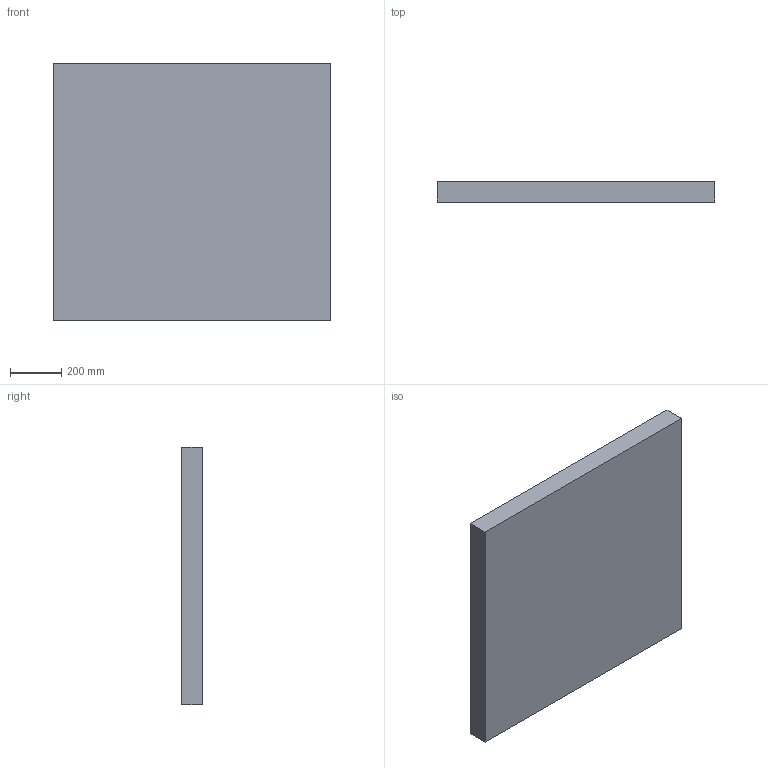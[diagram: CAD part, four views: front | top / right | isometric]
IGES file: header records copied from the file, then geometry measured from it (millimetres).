
Start section: SolidWorks IGES file using NURBS representation for surfaces
Global section: file name: D:\VICCARBE\PRODUCTOS\19-MASS\04-MODELADOS (PLANOS)\SOLIDWORKS\PIEZAS\Accesories\01-IGES\VICCARBE_Mass_table.IGS; native system: SolidWorks 2009; preprocessor: SolidWorks 2009; author: RUBEN; date: 110908.155332; units: millimetre
Bounding box: 1080 x 80 x 1000 mm (x, y, z)
Surface area: 2492800 mm2 (no closed solid volume)
Topology: 0 solids, 0 shells, 6 faces, 24 edges, 24 vertices
Faces by surface type: bspline 6
